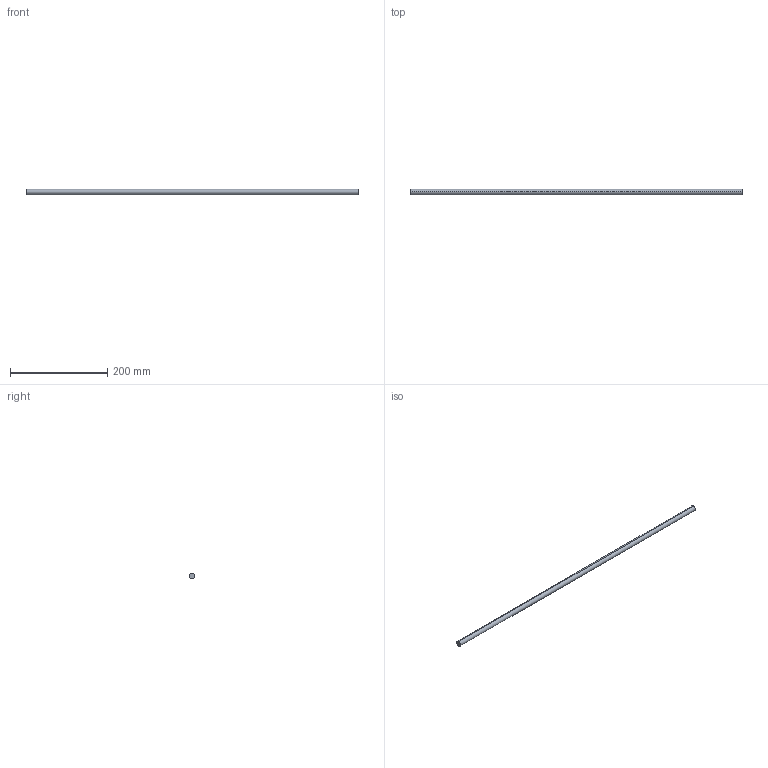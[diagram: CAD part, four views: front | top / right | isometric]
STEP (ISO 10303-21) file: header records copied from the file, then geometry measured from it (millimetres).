
FILE_DESCRIPTION (( 'STEP AP214' ), '1' );
FILE_NAME ('Querreling_Frontblende_Innenlade_KS-19_25mm-Halter_KAB-800.step', '2010-09-22T15:05:46', ( 'grass' ), ( '' ), 'SwSTEP 2.0', 'SolidWorks 2010', '' );
FILE_SCHEMA (( 'AUTOMOTIVE_DESIGN' ));
Length unit declared in the file: millimetre
Products named in the file (1): Querreling_Frontblende_Innenlade_KS-19_25mm-Halter_KAB-800
Bounding box: 684 x 11 x 11 mm (x, y, z)
Volume: 65002.7 mm3; surface area: 23827.4 mm2
Topology: 1 solids, 1 shells, 4 faces, 6 edges, 4 vertices
Faces by surface type: cylinder 2, plane 2
Entity records: 128 total; most frequent: DIRECTION 20, CARTESIAN_POINT 15, ORIENTED_EDGE 12, AXIS2_PLACEMENT_3D 9, EDGE_CURVE 6, VERTEX_POINT 4, EDGE_LOOP 4, FACE_OUTER_BOUND 4
